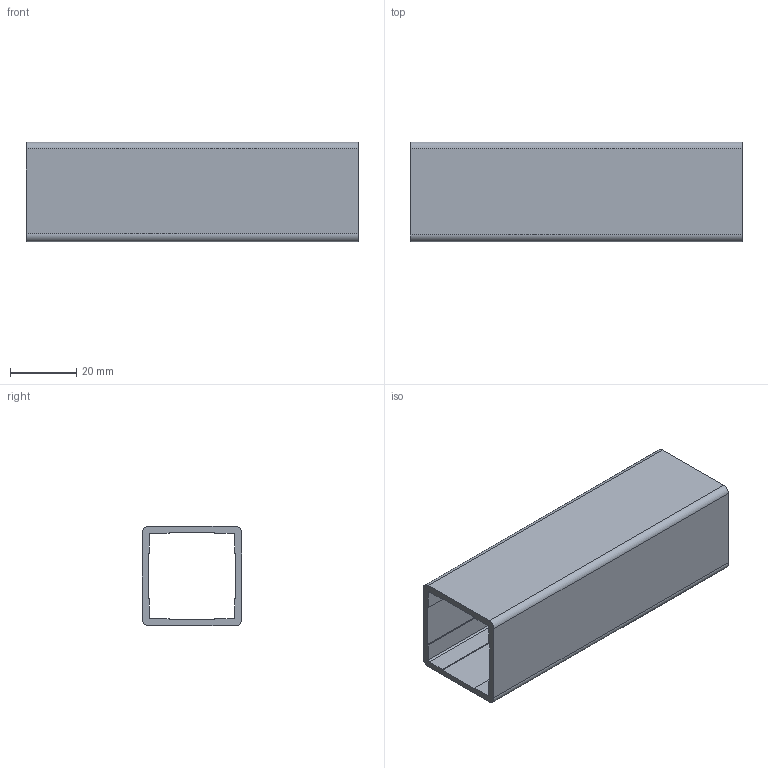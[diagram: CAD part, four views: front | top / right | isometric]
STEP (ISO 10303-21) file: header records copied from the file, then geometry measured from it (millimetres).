
FILE_DESCRIPTION (( 'STEP AP203' ), '1' );
FILE_NAME ('B040930.STEP', '2017-03-22T12:33:04', ( 'Localadmin' ), ( 'Microsoft' ), 'SwSTEP 2.0', 'SolidWorks 2016', '' );
FILE_SCHEMA (( 'CONFIG_CONTROL_DESIGN' ));
Length unit declared in the file: millimetre
Products named in the file (1): B040930
Bounding box: 100 x 30.05 x 30 mm (x, y, z)
Volume: 21465.4 mm3; surface area: 22563.3 mm2
Topology: 1 solids, 1 shells, 34 faces, 96 edges, 64 vertices
Faces by surface type: plane 26, cylinder 8
Entity records: 1177 total; most frequent: CARTESIAN_POINT 195, ORIENTED_EDGE 192, DIRECTION 182, EDGE_CURVE 96, VECTOR 80, LINE 80, VERTEX_POINT 64, AXIS2_PLACEMENT_3D 51
